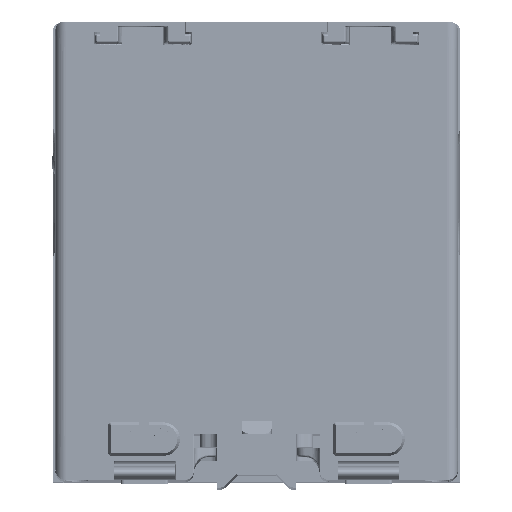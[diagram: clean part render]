
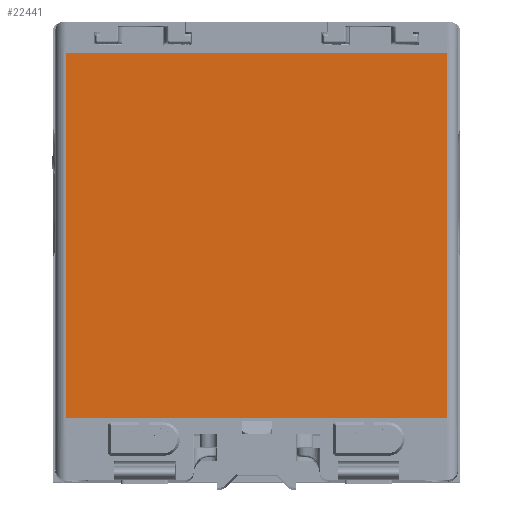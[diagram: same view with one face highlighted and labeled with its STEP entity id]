
A CAD part, top view. The second image highlights one B-rep face of the part: STEP entity #22441.
In plain terms, the highlighted planar face has unit normal (0, 0, 1) as drawn and (1, 0, 0) by its records, which use the part's own axes.
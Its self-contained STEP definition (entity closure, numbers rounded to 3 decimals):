
#6502 = CARTESIAN_POINT ( 'NONE',  ( 27.371, 71., 37. ) ) ;
#10352 = CARTESIAN_POINT ( 'NONE',  ( 27.371, 0., -37. ) ) ;
#22441 = ADVANCED_FACE ( 'NONE', ( #58178 ), #51745, .F. ) ;
#34025 = CARTESIAN_POINT ( 'NONE',  ( 27.371, 71., -37. ) ) ;
#40852 = DIRECTION ( 'NONE',  ( 0., 0., -1. ) ) ;
#42669 = EDGE_CURVE ( 'NONE', #72682, #97237, #127597, .T. ) ;
#44942 = CARTESIAN_POINT ( 'NONE',  ( 27.371, 71., 37. ) ) ;
#47472 = AXIS2_PLACEMENT_3D ( 'NONE', #133896, #125080, #49381 ) ;
#49381 = DIRECTION ( 'NONE',  ( 0., 0., 1. ) ) ;
#51745 = PLANE ( 'NONE',  #47472 ) ;
#53459 = LINE ( 'NONE', #102110, #128595 ) ;
#56449 = VERTEX_POINT ( 'NONE', #10352 ) ;
#58178 = FACE_OUTER_BOUND ( 'NONE', #123412, .T. ) ;
#63950 = VECTOR ( 'NONE', #40852, 1000. ) ;
#71502 = CARTESIAN_POINT ( 'NONE',  ( 27.371, 71., -37. ) ) ;
#72682 = VERTEX_POINT ( 'NONE', #44942 ) ;
#77506 = LINE ( 'NONE', #150061, #63950 ) ;
#84212 = DIRECTION ( 'NONE',  ( 0., -1., 0. ) ) ;
#89499 = ORIENTED_EDGE ( 'NONE', *, *, #94035, .F. ) ;
#93858 = LINE ( 'NONE', #34025, #131071 ) ;
#94035 = EDGE_CURVE ( 'NONE', #139718, #56449, #93858, .T. ) ;
#97237 = VERTEX_POINT ( 'NONE', #124555 ) ;
#102110 = CARTESIAN_POINT ( 'NONE',  ( 27.371, 0., -37. ) ) ;
#112036 = ORIENTED_EDGE ( 'NONE', *, *, #42669, .T. ) ;
#114153 = VECTOR ( 'NONE', #152315, 1000. ) ;
#123412 = EDGE_LOOP ( 'NONE', ( #157437, #89499, #131512, #112036 ) ) ;
#124555 = CARTESIAN_POINT ( 'NONE',  ( 27.371, 0., 37. ) ) ;
#125080 = DIRECTION ( 'NONE',  ( -1., 0., 0. ) ) ;
#127597 = LINE ( 'NONE', #6502, #114153 ) ;
#128595 = VECTOR ( 'NONE', #150697, 1000. ) ;
#131071 = VECTOR ( 'NONE', #84212, 1000. ) ;
#131512 = ORIENTED_EDGE ( 'NONE', *, *, #142552, .F. ) ;
#133896 = CARTESIAN_POINT ( 'NONE',  ( 27.371, 71., -37. ) ) ;
#139718 = VERTEX_POINT ( 'NONE', #71502 ) ;
#142552 = EDGE_CURVE ( 'NONE', #72682, #139718, #77506, .T. ) ;
#148132 = EDGE_CURVE ( 'NONE', #97237, #56449, #53459, .T. ) ;
#150061 = CARTESIAN_POINT ( 'NONE',  ( 27.371, 71., -37. ) ) ;
#150697 = DIRECTION ( 'NONE',  ( 0., 0., -1. ) ) ;
#152315 = DIRECTION ( 'NONE',  ( 0., -1., 0. ) ) ;
#157437 = ORIENTED_EDGE ( 'NONE', *, *, #148132, .T. ) ;
